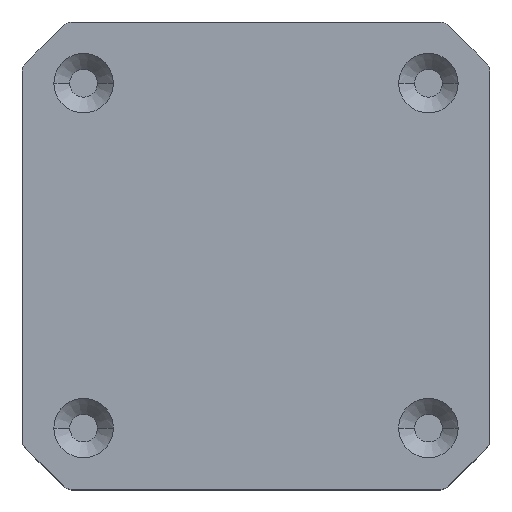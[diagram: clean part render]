
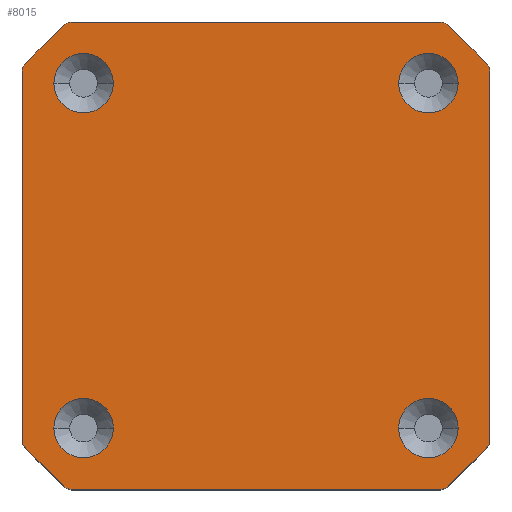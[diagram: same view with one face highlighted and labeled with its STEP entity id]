
A CAD part, top view. The second image highlights one B-rep face of the part: STEP entity #8015.
In plain terms, the highlighted planar face has unit normal (0, 0, 1).
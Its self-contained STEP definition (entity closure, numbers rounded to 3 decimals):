
#125=CARTESIAN_POINT('',(5.5,36.5,40.));
#126=DIRECTION('',(0.,0.,-1.));
#127=DIRECTION('',(-1.,0.,0.));
#128=AXIS2_PLACEMENT_3D('',#125,#126,#127);
#130=CARTESIAN_POINT('',(5.5,36.5,40.));
#131=DIRECTION('',(0.,0.,-1.));
#132=DIRECTION('',(1.,0.,0.));
#133=AXIS2_PLACEMENT_3D('',#130,#131,#132);
#135=CARTESIAN_POINT('',(36.5,36.5,40.));
#136=DIRECTION('',(0.,0.,-1.));
#137=DIRECTION('',(-1.,0.,0.));
#138=AXIS2_PLACEMENT_3D('',#135,#136,#137);
#140=CARTESIAN_POINT('',(36.5,36.5,40.));
#141=DIRECTION('',(0.,0.,-1.));
#142=DIRECTION('',(1.,0.,0.));
#143=AXIS2_PLACEMENT_3D('',#140,#141,#142);
#145=CARTESIAN_POINT('',(5.5,5.5,40.));
#146=DIRECTION('',(0.,0.,-1.));
#147=DIRECTION('',(-1.,0.,0.));
#148=AXIS2_PLACEMENT_3D('',#145,#146,#147);
#150=CARTESIAN_POINT('',(5.5,5.5,40.));
#151=DIRECTION('',(0.,0.,-1.));
#152=DIRECTION('',(1.,0.,0.));
#153=AXIS2_PLACEMENT_3D('',#150,#151,#152);
#155=CARTESIAN_POINT('',(36.5,5.5,40.));
#156=DIRECTION('',(0.,0.,-1.));
#157=DIRECTION('',(-1.,0.,0.));
#158=AXIS2_PLACEMENT_3D('',#155,#156,#157);
#160=CARTESIAN_POINT('',(36.5,5.5,40.));
#161=DIRECTION('',(0.,0.,-1.));
#162=DIRECTION('',(1.,0.,0.));
#163=AXIS2_PLACEMENT_3D('',#160,#161,#162);
#165=DIRECTION('',(-0.707,-0.707,0.));
#166=VECTOR('',#165,4.828);
#167=CARTESIAN_POINT('',(3.707,41.707,40.));
#168=LINE('',#167,#166);
#169=CARTESIAN_POINT('',(4.414,41.,40.));
#170=DIRECTION('',(0.,0.,1.));
#171=DIRECTION('',(0.,1.,0.));
#172=AXIS2_PLACEMENT_3D('',#169,#170,#171);
#174=DIRECTION('',(-1.,0.,0.));
#175=VECTOR('',#174,33.172);
#176=CARTESIAN_POINT('',(37.586,42.,40.));
#177=LINE('',#176,#175);
#178=CARTESIAN_POINT('',(37.586,41.,40.));
#179=DIRECTION('',(0.,0.,1.));
#180=DIRECTION('',(0.707,0.707,0.));
#181=AXIS2_PLACEMENT_3D('',#178,#179,#180);
#183=DIRECTION('',(-0.707,0.707,0.));
#184=VECTOR('',#183,4.828);
#185=CARTESIAN_POINT('',(41.707,38.293,40.));
#186=LINE('',#185,#184);
#187=CARTESIAN_POINT('',(41.,37.586,40.));
#188=DIRECTION('',(0.,0.,1.));
#189=DIRECTION('',(1.,0.,0.));
#190=AXIS2_PLACEMENT_3D('',#187,#188,#189);
#192=DIRECTION('',(0.,1.,0.));
#193=VECTOR('',#192,33.172);
#194=CARTESIAN_POINT('',(42.,4.414,40.));
#195=LINE('',#194,#193);
#196=CARTESIAN_POINT('',(41.,4.414,40.));
#197=DIRECTION('',(0.,0.,1.));
#198=DIRECTION('',(0.707,-0.707,0.));
#199=AXIS2_PLACEMENT_3D('',#196,#197,#198);
#201=DIRECTION('',(0.707,0.707,0.));
#202=VECTOR('',#201,4.828);
#203=CARTESIAN_POINT('',(38.293,0.293,40.));
#204=LINE('',#203,#202);
#205=CARTESIAN_POINT('',(37.586,1.,40.));
#206=DIRECTION('',(0.,0.,1.));
#207=DIRECTION('',(0.,-1.,0.));
#208=AXIS2_PLACEMENT_3D('',#205,#206,#207);
#210=DIRECTION('',(1.,0.,0.));
#211=VECTOR('',#210,33.172);
#212=CARTESIAN_POINT('',(4.414,0.,40.));
#213=LINE('',#212,#211);
#214=CARTESIAN_POINT('',(4.414,1.,40.));
#215=DIRECTION('',(0.,0.,1.));
#216=DIRECTION('',(-0.707,-0.707,0.));
#217=AXIS2_PLACEMENT_3D('',#214,#215,#216);
#219=DIRECTION('',(0.707,-0.707,0.));
#220=VECTOR('',#219,4.828);
#221=CARTESIAN_POINT('',(0.293,3.707,40.));
#222=LINE('',#221,#220);
#223=CARTESIAN_POINT('',(1.,4.414,40.));
#224=DIRECTION('',(0.,0.,1.));
#225=DIRECTION('',(-1.,0.,0.));
#226=AXIS2_PLACEMENT_3D('',#223,#224,#225);
#228=DIRECTION('',(0.,-1.,0.));
#229=VECTOR('',#228,33.172);
#230=CARTESIAN_POINT('',(0.,37.586,40.));
#231=LINE('',#230,#229);
#232=CARTESIAN_POINT('',(1.,37.586,40.));
#233=DIRECTION('',(0.,0.,1.));
#234=DIRECTION('',(-0.707,0.707,0.));
#235=AXIS2_PLACEMENT_3D('',#232,#233,#234);
#6764=CARTESIAN_POINT('',(3.707,41.707,40.));
#6765=CARTESIAN_POINT('',(0.293,38.293,40.));
#6766=VERTEX_POINT('',#6764);
#6767=VERTEX_POINT('',#6765);
#6768=CARTESIAN_POINT('',(0.,37.586,40.));
#6769=VERTEX_POINT('',#6768);
#6770=CARTESIAN_POINT('',(0.,4.414,40.));
#6771=VERTEX_POINT('',#6770);
#6772=CARTESIAN_POINT('',(0.293,3.707,40.));
#6773=VERTEX_POINT('',#6772);
#6774=CARTESIAN_POINT('',(3.707,0.293,40.));
#6775=VERTEX_POINT('',#6774);
#6776=CARTESIAN_POINT('',(4.414,0.,40.));
#6777=VERTEX_POINT('',#6776);
#6778=CARTESIAN_POINT('',(37.586,0.,40.));
#6779=VERTEX_POINT('',#6778);
#6780=CARTESIAN_POINT('',(38.293,0.293,40.));
#6781=VERTEX_POINT('',#6780);
#6782=CARTESIAN_POINT('',(41.707,3.707,40.));
#6783=VERTEX_POINT('',#6782);
#6784=CARTESIAN_POINT('',(42.,4.414,40.));
#6785=VERTEX_POINT('',#6784);
#6786=CARTESIAN_POINT('',(42.,37.586,40.));
#6787=VERTEX_POINT('',#6786);
#6788=CARTESIAN_POINT('',(41.707,38.293,40.));
#6789=VERTEX_POINT('',#6788);
#6790=CARTESIAN_POINT('',(38.293,41.707,40.));
#6791=VERTEX_POINT('',#6790);
#6792=CARTESIAN_POINT('',(37.586,42.,40.));
#6793=VERTEX_POINT('',#6792);
#6794=CARTESIAN_POINT('',(4.414,42.,40.));
#6795=VERTEX_POINT('',#6794);
#7736=CARTESIAN_POINT('',(8.174,36.5,40.));
#7737=VERTEX_POINT('',#7736);
#7738=CARTESIAN_POINT('',(2.826,36.5,40.));
#7739=VERTEX_POINT('',#7738);
#7740=CARTESIAN_POINT('',(39.174,36.5,40.));
#7741=VERTEX_POINT('',#7740);
#7742=CARTESIAN_POINT('',(33.826,36.5,40.));
#7743=VERTEX_POINT('',#7742);
#7744=CARTESIAN_POINT('',(8.174,5.5,40.));
#7745=VERTEX_POINT('',#7744);
#7746=CARTESIAN_POINT('',(2.826,5.5,40.));
#7747=VERTEX_POINT('',#7746);
#7748=CARTESIAN_POINT('',(39.174,5.5,40.));
#7749=VERTEX_POINT('',#7748);
#7750=CARTESIAN_POINT('',(33.826,5.5,40.));
#7751=VERTEX_POINT('',#7750);
#7953=CARTESIAN_POINT('',(0.,0.,40.));
#7954=DIRECTION('',(0.,0.,-1.));
#7955=DIRECTION('',(-1.,0.,0.));
#7956=AXIS2_PLACEMENT_3D('',#7953,#7954,#7955);
#7957=PLANE('',#7956);
#7959=ORIENTED_EDGE('',*,*,#7958,.F.);
#7961=ORIENTED_EDGE('',*,*,#7960,.F.);
#7962=ORIENTED_EDGE('',*,*,#7913,.F.);
#7964=ORIENTED_EDGE('',*,*,#7963,.F.);
#7966=ORIENTED_EDGE('',*,*,#7965,.F.);
#7968=ORIENTED_EDGE('',*,*,#7967,.F.);
#7970=ORIENTED_EDGE('',*,*,#7969,.F.);
#7972=ORIENTED_EDGE('',*,*,#7971,.F.);
#7974=ORIENTED_EDGE('',*,*,#7973,.F.);
#7976=ORIENTED_EDGE('',*,*,#7975,.F.);
#7978=ORIENTED_EDGE('',*,*,#7977,.F.);
#7980=ORIENTED_EDGE('',*,*,#7979,.F.);
#7982=ORIENTED_EDGE('',*,*,#7981,.F.);
#7984=ORIENTED_EDGE('',*,*,#7983,.F.);
#7986=ORIENTED_EDGE('',*,*,#7985,.F.);
#7988=ORIENTED_EDGE('',*,*,#7987,.F.);
#7989=EDGE_LOOP('',(#7959,#7961,#7962,#7964,#7966,#7968,#7970,#7972,#7974,#7976,
#7978,#7980,#7982,#7984,#7986,#7988));
#7990=FACE_OUTER_BOUND('',#7989,.F.);
#7992=ORIENTED_EDGE('',*,*,#7991,.F.);
#7994=ORIENTED_EDGE('',*,*,#7993,.F.);
#7995=EDGE_LOOP('',(#7992,#7994));
#7996=FACE_BOUND('',#7995,.F.);
#7998=ORIENTED_EDGE('',*,*,#7997,.F.);
#8000=ORIENTED_EDGE('',*,*,#7999,.F.);
#8001=EDGE_LOOP('',(#7998,#8000));
#8002=FACE_BOUND('',#8001,.F.);
#8004=ORIENTED_EDGE('',*,*,#8003,.F.);
#8006=ORIENTED_EDGE('',*,*,#8005,.F.);
#8007=EDGE_LOOP('',(#8004,#8006));
#8008=FACE_BOUND('',#8007,.F.);
#8010=ORIENTED_EDGE('',*,*,#8009,.F.);
#8012=ORIENTED_EDGE('',*,*,#8011,.F.);
#8013=EDGE_LOOP('',(#8010,#8012));
#8014=FACE_BOUND('',#8013,.F.);
#129=CIRCLE('',#128,2.674);
#134=CIRCLE('',#133,2.674);
#139=CIRCLE('',#138,2.674);
#144=CIRCLE('',#143,2.674);
#149=CIRCLE('',#148,2.674);
#154=CIRCLE('',#153,2.674);
#159=CIRCLE('',#158,2.674);
#164=CIRCLE('',#163,2.674);
#173=CIRCLE('',#172,1.);
#182=CIRCLE('',#181,1.);
#191=CIRCLE('',#190,1.);
#200=CIRCLE('',#199,1.);
#209=CIRCLE('',#208,1.);
#218=CIRCLE('',#217,1.);
#227=CIRCLE('',#226,1.);
#236=CIRCLE('',#235,1.);
#7913=EDGE_CURVE('',#6793,#6795,#177,.T.);
#7958=EDGE_CURVE('',#6766,#6767,#168,.T.);
#7960=EDGE_CURVE('',#6795,#6766,#173,.T.);
#7963=EDGE_CURVE('',#6791,#6793,#182,.T.);
#7965=EDGE_CURVE('',#6789,#6791,#186,.T.);
#7967=EDGE_CURVE('',#6787,#6789,#191,.T.);
#7969=EDGE_CURVE('',#6785,#6787,#195,.T.);
#7971=EDGE_CURVE('',#6783,#6785,#200,.T.);
#7973=EDGE_CURVE('',#6781,#6783,#204,.T.);
#7975=EDGE_CURVE('',#6779,#6781,#209,.T.);
#7977=EDGE_CURVE('',#6777,#6779,#213,.T.);
#7979=EDGE_CURVE('',#6775,#6777,#218,.T.);
#7981=EDGE_CURVE('',#6773,#6775,#222,.T.);
#7983=EDGE_CURVE('',#6771,#6773,#227,.T.);
#7985=EDGE_CURVE('',#6769,#6771,#231,.T.);
#7987=EDGE_CURVE('',#6767,#6769,#236,.T.);
#7991=EDGE_CURVE('',#7743,#7741,#139,.T.);
#7993=EDGE_CURVE('',#7741,#7743,#144,.T.);
#7997=EDGE_CURVE('',#7747,#7745,#149,.T.);
#7999=EDGE_CURVE('',#7745,#7747,#154,.T.);
#8003=EDGE_CURVE('',#7751,#7749,#159,.T.);
#8005=EDGE_CURVE('',#7749,#7751,#164,.T.);
#8009=EDGE_CURVE('',#7739,#7737,#129,.T.);
#8011=EDGE_CURVE('',#7737,#7739,#134,.T.);
#8015=ADVANCED_FACE('',(#7990,#7996,#8002,#8008,#8014),#7957,.F.);
